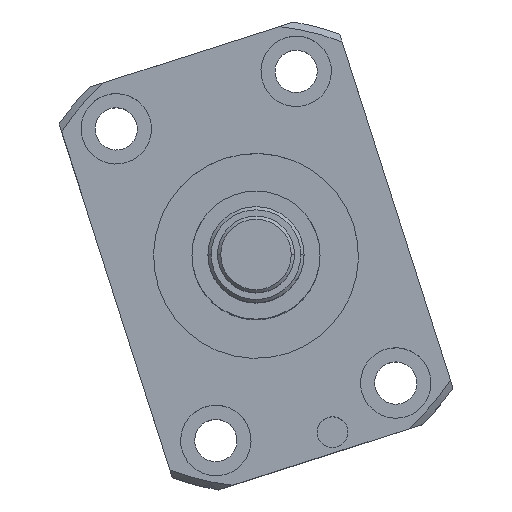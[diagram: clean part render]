
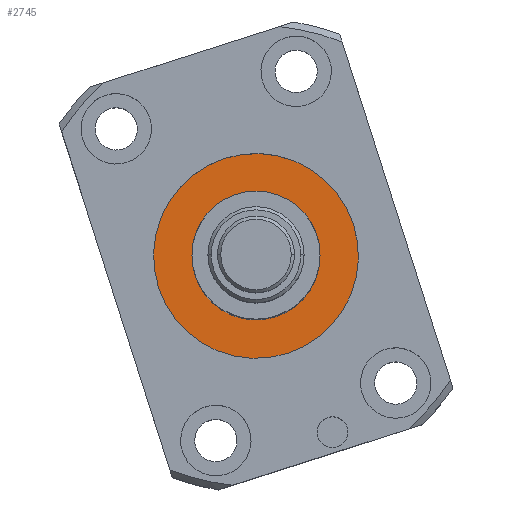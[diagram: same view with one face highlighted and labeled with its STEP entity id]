
A CAD part, top view. The second image highlights one B-rep face of the part: STEP entity #2745.
In plain terms, the highlighted planar face has unit normal (0, 0, 1).
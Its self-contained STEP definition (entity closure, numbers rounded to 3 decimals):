
#14 = VERTEX_POINT ( 'NONE', #586 ) ;
#23 = ORIENTED_EDGE ( 'NONE', *, *, #3455, .T. ) ;
#168 = ORIENTED_EDGE ( 'NONE', *, *, #2065, .T. ) ;
#220 = CIRCLE ( 'NONE', #2515, 16. ) ;
#342 = VERTEX_POINT ( 'NONE', #378 ) ;
#378 = CARTESIAN_POINT ( 'NONE',  ( 10., 0., -7. ) ) ;
#487 = FACE_BOUND ( 'NONE', #3079, .T. ) ;
#515 = CIRCLE ( 'NONE', #903, 10. ) ;
#586 = CARTESIAN_POINT ( 'NONE',  ( 16., 0., -7. ) ) ;
#794 = DIRECTION ( 'NONE',  ( 0., 0., 1. ) ) ;
#797 = AXIS2_PLACEMENT_3D ( 'NONE', #2976, #794, #2693 ) ;
#863 = EDGE_CURVE ( 'NONE', #2151, #342, #2974, .T. ) ;
#903 = AXIS2_PLACEMENT_3D ( 'NONE', #3163, #1512, #3450 ) ;
#930 = ORIENTED_EDGE ( 'NONE', *, *, #2113, .T. ) ;
#963 = DIRECTION ( 'NONE',  ( 0., 0., 1. ) ) ;
#1169 = DIRECTION ( 'NONE',  ( 0., 0., -1. ) ) ;
#1250 = DIRECTION ( 'NONE',  ( 0., 0., 1. ) ) ;
#1512 = DIRECTION ( 'NONE',  ( 0., 0., -1. ) ) ;
#1646 = ORIENTED_EDGE ( 'NONE', *, *, #863, .T. ) ;
#1710 = AXIS2_PLACEMENT_3D ( 'NONE', #2823, #1169, #3100 ) ;
#1835 = FACE_OUTER_BOUND ( 'NONE', #1869, .T. ) ;
#1869 = EDGE_LOOP ( 'NONE', ( #168, #930 ) ) ;
#2065 = EDGE_CURVE ( 'NONE', #14, #2958, #3220, .T. ) ;
#2097 = CARTESIAN_POINT ( 'NONE',  ( -16., 0., -7. ) ) ;
#2113 = EDGE_CURVE ( 'NONE', #2958, #14, #220, .T. ) ;
#2151 = VERTEX_POINT ( 'NONE', #3202 ) ;
#2416 = PLANE ( 'NONE',  #797 ) ;
#2515 = AXIS2_PLACEMENT_3D ( 'NONE', #2911, #1250, #3193 ) ;
#2597 = CARTESIAN_POINT ( 'NONE',  ( 0., 0., -7. ) ) ;
#2687 = AXIS2_PLACEMENT_3D ( 'NONE', #2597, #963, #2886 ) ;
#2693 = DIRECTION ( 'NONE',  ( 1., 0., 0. ) ) ;
#2745 = ADVANCED_FACE ( 'NONE', ( #1835, #487 ), #2416, .T. ) ;
#2823 = CARTESIAN_POINT ( 'NONE',  ( 0., 0., -7. ) ) ;
#2886 = DIRECTION ( 'NONE',  ( 1., 0., 0. ) ) ;
#2911 = CARTESIAN_POINT ( 'NONE',  ( 0., 0., -7. ) ) ;
#2958 = VERTEX_POINT ( 'NONE', #2097 ) ;
#2974 = CIRCLE ( 'NONE', #1710, 10. ) ;
#2976 = CARTESIAN_POINT ( 'NONE',  ( 0., 0., -7. ) ) ;
#3079 = EDGE_LOOP ( 'NONE', ( #1646, #23 ) ) ;
#3100 = DIRECTION ( 'NONE',  ( 1., 0., 0. ) ) ;
#3163 = CARTESIAN_POINT ( 'NONE',  ( 0., 0., -7. ) ) ;
#3193 = DIRECTION ( 'NONE',  ( 1., 0., 0. ) ) ;
#3202 = CARTESIAN_POINT ( 'NONE',  ( -10., 0., -7. ) ) ;
#3220 = CIRCLE ( 'NONE', #2687, 16. ) ;
#3450 = DIRECTION ( 'NONE',  ( 1., 0., 0. ) ) ;
#3455 = EDGE_CURVE ( 'NONE', #342, #2151, #515, .T. ) ;
